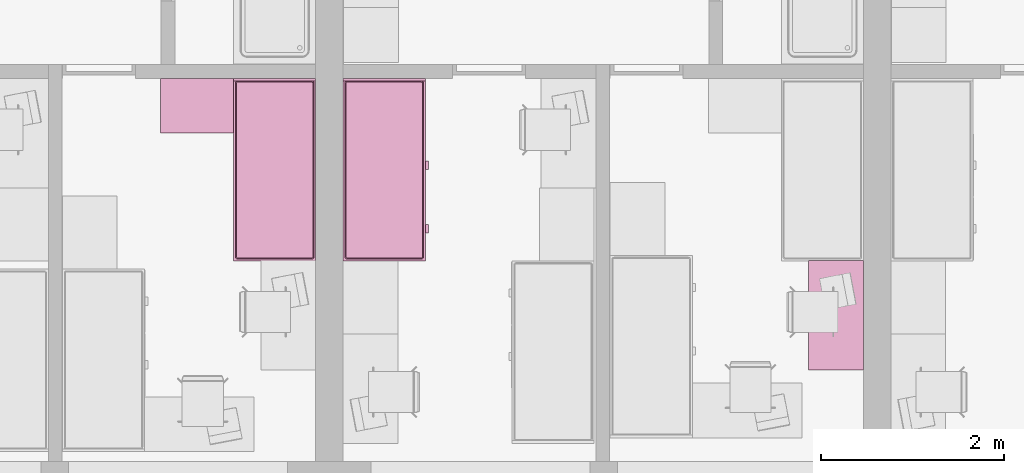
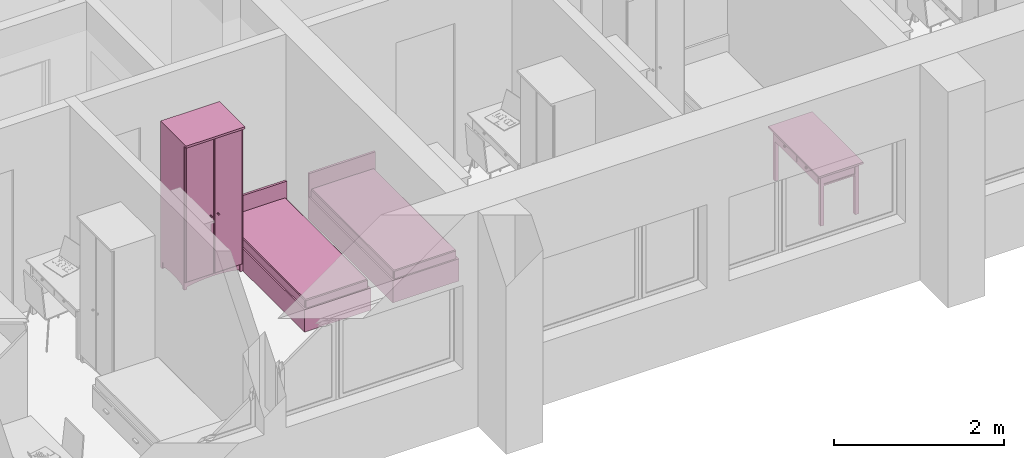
# One storey, part 99 of 172: 4 furnishings.
"""IFC2X3 building model written with IfcOpenShell, lengths in millimetres."""

from ifc_helpers import new_model, entity, si_unit, converted_unit, money_unit, direction, frame, origin_with_axes, place, context, subcontext, project, spatial, faceted_brep, source, transform, mapped, material, material_list, type_object, element, save


model = new_model("IFC2X3")

# Units and contexts
model_context = context("Model", 3, precision=1e-05, world=origin_with_axes(), true_north=direction((0.0, 1.0)))
body_context = subcontext(model_context, "Body", "Model", "MODEL_VIEW")
ifc_project = project(units=[si_unit("LENGTHUNIT", "METRE", prefix="MILLI"), si_unit("AREAUNIT", "SQUARE_METRE"), si_unit("VOLUMEUNIT", "CUBIC_METRE"), converted_unit("PLANEANGLEUNIT", "DEGREE", entity("IfcPlaneAngleMeasure", 0.0174532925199), si_unit("PLANEANGLEUNIT", "RADIAN"), dimensions=[0, 0, 0, 0, 0, 0, 0]), si_unit("SOLIDANGLEUNIT", "STERADIAN"), money_unit("USD"), converted_unit("TIMEUNIT", "Year", entity("IfcTimeMeasure", 31556926.0), si_unit("TIMEUNIT", "SECOND"), dimensions=[0, 0, 0, 0, 0, 0, 0]), si_unit("MASSUNIT", "GRAM"), si_unit("THERMODYNAMICTEMPERATUREUNIT", "DEGREE_CELSIUS"), si_unit("LUMINOUSINTENSITYUNIT", "LUMEN")], contexts=[model_context])

# Site, building, storey
site_placement = place(None, origin_with_axes())
site = spatial("IfcSite", under=ifc_project, at=site_placement, Name="Site", CompositionType="ELEMENT")
building_placement = place(site_placement, origin_with_axes())
building = spatial("IfcBuilding", under=site, at=building_placement, Name="Building", CompositionType="ELEMENT")
storey_placement = place(building_placement, frame((0.0, 0.0, 3200.0), z_axis=(0.0, 0.0, 1.0), x_axis=(1.0, 0.0, 0.0)))
storey = spatial("IfcBuildingStorey", under=building, at=storey_placement, Name="3KORRUS", CompositionType="ELEMENT", Elevation=3200.0)

# Furnishings
ifc_material = material(Name="Background")
ifc_material_list = material_list([ifc_material])
furnishing_element_type_1 = type_object("IfcFurnishingElementType", Name="Bed 19")
shared_shape_1 = source(origin_with_axes(), body_context, "Body", "Brep", [
    faceted_brep([(900.0, 1970.0, 0.0), (0.0, 1970.0, 0.0), (0.0, 2000.0, 0.0), (900.0, 2000.0, 0.0), (900.0, 1970.0, 660.0), (0.0, 1970.0, 660.0), (0.0, 2000.0, 660.0), (900.0, 2000.0, 660.0)], [[[0, 1, 2, 3]], [[1, 0, 4, 5]], [[2, 1, 5, 6]], [[3, 2, 6, 7]], [[0, 3, 7, 4]], [[5, 4, 7, 6]]]),
    faceted_brep([(900.0, 0.0, 0.0), (0.0, 0.0, 0.0), (0.0, 1970.0, 0.0), (900.0, 1970.0, 0.0), (900.0, 0.0, 320.0), (0.0, 0.0, 320.0), (0.0, 1970.0, 320.0), (900.0, 1970.0, 320.0)], [[[0, 1, 2, 3]], [[1, 0, 4, 5]], [[2, 1, 5, 6]], [[3, 2, 6, 7]], [[0, 3, 7, 4]], [[5, 4, 7, 6]]]),
    faceted_brep([(905.0, 10.0, 30.0), (900.0, 10.0, 30.0), (900.0, 695.0, 30.0), (905.0, 695.0, 30.0), (905.0, 10.0, 290.0), (900.0, 10.0, 290.0), (900.0, 695.0, 290.0), (905.0, 695.0, 290.0)], [[[0, 1, 2, 3]], [[1, 0, 4, 5]], [[2, 1, 5, 6]], [[3, 2, 6, 7]], [[0, 3, 7, 4]], [[5, 4, 7, 6]]]),
    faceted_brep([(935.0, 307.5, 150.0), (905.0, 307.5, 150.0), (905.0, 397.5, 150.0), (935.0, 397.5, 150.0), (935.0, 307.5, 170.0), (905.0, 307.5, 170.0), (905.0, 397.5, 170.0), (935.0, 397.5, 170.0)], [[[0, 1, 2, 3]], [[1, 0, 4, 5]], [[2, 1, 5, 6]], [[3, 2, 6, 7]], [[0, 3, 7, 4]], [[5, 4, 7, 6]]]),
    faceted_brep([(905.0, 705.0, 30.0), (900.0, 705.0, 30.0), (900.0, 1390.0, 30.0), (905.0, 1390.0, 30.0), (905.0, 705.0, 290.0), (900.0, 705.0, 290.0), (900.0, 1390.0, 290.0), (905.0, 1390.0, 290.0)], [[[0, 1, 2, 3]], [[1, 0, 4, 5]], [[2, 1, 5, 6]], [[3, 2, 6, 7]], [[0, 3, 7, 4]], [[5, 4, 7, 6]]]),
    faceted_brep([(935.0, 1002.5, 150.0), (905.0, 1002.5, 150.0), (905.0, 1092.5, 150.0), (935.0, 1092.5, 150.0), (935.0, 1002.5, 170.0), (905.0, 1002.5, 170.0), (905.0, 1092.5, 170.0), (935.0, 1092.5, 170.0)], [[[0, 1, 2, 3]], [[1, 0, 4, 5]], [[2, 1, 5, 6]], [[3, 2, 6, 7]], [[0, 3, 7, 4]], [[5, 4, 7, 6]]]),
    faceted_brep([(20.0, 40.0, 350.0), (20.0, 1950.0, 350.0), (21.522, 1957.654, 350.0), (25.858, 1964.142, 350.0), (32.346, 1968.478, 350.0), (40.0, 1970.0, 350.0), (860.0, 1970.0, 350.0), (867.654, 1968.478, 350.0), (874.142, 1964.142, 350.0), (878.478, 1957.654, 350.0), (880.0, 1950.0, 350.0), (880.0, 40.0, 350.0), (878.478, 32.346, 350.0), (874.142, 25.858, 350.0), (867.654, 21.522, 350.0), (860.0, 20.0, 350.0), (40.0, 20.0, 350.0), (32.346, 21.522, 350.0), (25.858, 25.858, 350.0), (21.522, 32.346, 350.0), (20.0, 40.0, 420.0), (20.0, 1950.0, 420.0), (21.522, 1957.654, 420.0), (25.858, 1964.142, 420.0), (32.346, 1968.478, 420.0), (40.0, 1970.0, 420.0), (860.0, 1970.0, 420.0), (867.654, 1968.478, 420.0), (874.142, 1964.142, 420.0), (878.478, 1957.654, 420.0), (880.0, 1950.0, 420.0), (880.0, 40.0, 420.0), (878.478, 32.346, 420.0), (874.142, 25.858, 420.0), (867.654, 21.522, 420.0), (860.0, 20.0, 420.0), (40.0, 20.0, 420.0), (32.346, 21.522, 420.0), (25.858, 25.858, 420.0), (21.522, 32.346, 420.0), (21.522, 40.15, 427.654), (21.522, 1949.85, 427.654), (22.956, 1957.06, 427.654), (26.955, 1963.045, 427.654), (32.94, 1967.044, 427.654), (40.15, 1968.478, 427.654), (859.85, 1968.478, 427.654), (867.06, 1967.044, 427.654), (873.045, 1963.045, 427.654), (877.044, 1957.06, 427.654), (878.478, 1949.85, 427.654), (878.478, 40.15, 427.654), (877.044, 32.94, 427.654), (873.045, 26.955, 427.654), (867.06, 22.956, 427.654), (859.85, 21.522, 427.654), (40.15, 21.522, 427.654), (32.94, 22.956, 427.654), (26.955, 26.955, 427.654), (22.956, 32.94, 427.654), (32.346, 41.216, 438.478), (32.346, 1948.784, 438.478), (33.152, 1952.836, 438.478), (34.759, 1955.241, 438.478), (37.164, 1956.848, 438.478), (41.216, 1957.654, 438.478), (858.784, 1957.654, 438.478), (862.836, 1956.848, 438.478), (865.241, 1955.241, 438.478), (866.848, 1952.836, 438.478), (867.654, 1948.784, 438.478), (867.654, 41.216, 438.478), (866.848, 37.164, 438.478), (865.241, 34.759, 438.478), (862.836, 33.152, 438.478), (858.784, 32.346, 438.478), (41.216, 32.346, 438.478), (37.164, 33.152, 438.478), (34.759, 34.759, 438.478), (33.152, 37.164, 438.478), (40.0, 41.97, 440.0), (40.0, 1948.03, 440.0), (40.327, 1949.673, 440.0), (40.0, 1950.0, 439.924), (41.97, 1950.0, 440.0), (858.03, 1950.0, 440.0), (859.673, 1949.673, 440.0), (860.0, 1950.0, 439.924), (860.0, 1948.03, 440.0), (860.0, 41.97, 440.0), (859.673, 40.327, 440.0), (860.0, 40.0, 439.924), (858.03, 40.0, 440.0), (41.97, 40.0, 440.0), (40.327, 40.327, 440.0), (40.0, 40.0, 439.924)], [[[0, 1, 2, 3, 4, 5, 6, 7, 8, 9, 10, 11, 12, 13, 14, 15, 16, 17, 18, 19]], [[1, 0, 20, 21]], [[2, 1, 21, 22]], [[3, 2, 22, 23]], [[4, 3, 23, 24]], [[5, 4, 24, 25]], [[6, 5, 25, 26]], [[7, 6, 26, 27]], [[8, 7, 27, 28]], [[9, 8, 28, 29]], [[10, 9, 29, 30]], [[11, 10, 30, 31]], [[12, 11, 31, 32]], [[13, 12, 32, 33]], [[14, 13, 33, 34]], [[15, 14, 34, 35]], [[16, 15, 35, 36]], [[17, 16, 36, 37]], [[18, 17, 37, 38]], [[19, 18, 38, 39]], [[0, 19, 39, 20]], [[21, 20, 40, 41]], [[22, 21, 41, 42]], [[23, 22, 42, 43]], [[24, 23, 43, 44]], [[25, 24, 44, 45]], [[26, 25, 45, 46]], [[27, 26, 46, 47]], [[28, 27, 47, 48]], [[29, 28, 48, 49]], [[30, 29, 49, 50]], [[31, 30, 50, 51]], [[32, 31, 51, 52]], [[33, 32, 52, 53]], [[34, 33, 53, 54]], [[35, 34, 54, 55]], [[36, 35, 55, 56]], [[37, 36, 56, 57]], [[38, 37, 57, 58]], [[39, 38, 58, 59]], [[20, 39, 59, 40]], [[41, 40, 60, 61]], [[42, 41, 61, 62]], [[43, 42, 62, 63]], [[44, 43, 63, 64]], [[45, 44, 64, 65]], [[46, 45, 65, 66]], [[47, 46, 66, 67]], [[48, 47, 67, 68]], [[49, 48, 68, 69]], [[50, 49, 69, 70]], [[51, 50, 70, 71]], [[52, 51, 71, 72]], [[53, 52, 72, 73]], [[54, 53, 73, 74]], [[55, 54, 74, 75]], [[56, 55, 75, 76]], [[57, 56, 76, 77]], [[58, 57, 77, 78]], [[59, 58, 78, 79]], [[40, 59, 79, 60]], [[61, 60, 80, 81]], [[62, 61, 81, 82, 83]], [[63, 62, 83]], [[64, 63, 83]], [[65, 64, 83, 82, 84]], [[66, 65, 84, 85]], [[67, 66, 85, 86, 87]], [[68, 67, 87]], [[69, 68, 87]], [[70, 69, 87, 86, 88]], [[71, 70, 88, 89]], [[72, 71, 89, 90, 91]], [[73, 72, 91]], [[74, 73, 91]], [[75, 74, 91, 90, 92]], [[76, 75, 92, 93]], [[77, 76, 93, 94, 95]], [[78, 77, 95]], [[79, 78, 95]], [[60, 79, 95, 94, 80]], [[81, 80, 94, 93, 92, 90, 89, 88, 86, 85, 84, 82]]]),
    faceted_brep([(20.0, 40.0, 350.0), (21.522, 32.346, 350.0), (25.858, 25.858, 350.0), (32.346, 21.522, 350.0), (40.0, 20.0, 350.0), (860.0, 20.0, 350.0), (867.654, 21.522, 350.0), (874.142, 25.858, 350.0), (878.478, 32.346, 350.0), (880.0, 40.0, 350.0), (880.0, 1950.0, 350.0), (878.478, 1957.654, 350.0), (874.142, 1964.142, 350.0), (867.654, 1968.478, 350.0), (860.0, 1970.0, 350.0), (40.0, 1970.0, 350.0), (32.346, 1968.478, 350.0), (25.858, 1964.142, 350.0), (21.522, 1957.654, 350.0), (20.0, 1950.0, 350.0), (20.0, 40.0, 320.0), (21.522, 32.346, 320.0), (25.858, 25.858, 320.0), (32.346, 21.522, 320.0), (40.0, 20.0, 320.0), (860.0, 20.0, 320.0), (867.654, 21.522, 320.0), (874.142, 25.858, 320.0), (878.478, 32.346, 320.0), (880.0, 40.0, 320.0), (880.0, 1950.0, 320.0), (878.478, 1957.654, 320.0), (874.142, 1964.142, 320.0), (867.654, 1968.478, 320.0), (860.0, 1970.0, 320.0), (40.0, 1970.0, 320.0), (32.346, 1968.478, 320.0), (25.858, 1964.142, 320.0), (21.522, 1957.654, 320.0), (20.0, 1950.0, 320.0)], [[[0, 1, 2, 3, 4, 5, 6, 7, 8, 9, 10, 11, 12, 13, 14, 15, 16, 17, 18, 19]], [[0, 20, 21, 1]], [[1, 21, 22, 2]], [[2, 22, 23, 3]], [[3, 23, 24, 4]], [[4, 24, 25, 5]], [[5, 25, 26, 6]], [[6, 26, 27, 7]], [[7, 27, 28, 8]], [[8, 28, 29, 9]], [[9, 29, 30, 10]], [[10, 30, 31, 11]], [[11, 31, 32, 12]], [[12, 32, 33, 13]], [[13, 33, 34, 14]], [[14, 34, 35, 15]], [[15, 35, 36, 16]], [[16, 36, 37, 17]], [[17, 37, 38, 18]], [[18, 38, 39, 19]], [[19, 39, 20, 0]], [[20, 39, 38, 37, 36, 35, 34, 33, 32, 31, 30, 29, 28, 27, 26, 25, 24, 23, 22, 21]]]),
])
for number, where, z_axis, x_axis, name in (
    (1, (-37190.2967033, -17439.2398994, 0.0), (0.0, 0.0, 1.0), (1.0, 0.0, 0.0), "FU - 013"),
    (2, (-35990.2967033, -17439.2398994, 0.0), (0.0, 0.0, 1.0), (1.0, 0.0, 0.0), "FU - 013"),
):
    element("IfcFurnishingElement", number, at=place(storey_placement, frame(where, z_axis=z_axis, x_axis=x_axis)), inside=storey, type_object=furnishing_element_type_1, material=ifc_material_list, Name=name, context=body_context, shape_type="MappedRepresentation", body=[
        mapped(shared_shape_1, transform((0.0, 0.0, 0.0))),
    ])
furnishing_element_type_2 = type_object("IfcFurnishingElementType", Name="Cupboard 19")
shared_shape_2 = source(origin_with_axes(), body_context, "Body", "Brep", [
    faceted_brep([(780.0, 600.0, 120.0), (780.0, 600.0, 2050.0), (780.0, 580.0, 2050.0), (780.0, 580.0, 120.0), (20.0, 600.0, 120.0), (20.0, 600.0, 2050.0), (20.0, 580.0, 2050.0), (20.0, 580.0, 120.0)], [[[0, 1, 2, 3]], [[4, 5, 1, 0]], [[1, 5, 6, 2]], [[3, 2, 6, 7]], [[0, 3, 7, 4]], [[7, 6, 5, 4]]]),
    faceted_brep([(0.0, 50.0, 100.0), (0.0, 600.0, 100.0), (20.0, 600.0, 100.0), (20.0, 50.0, 100.0), (0.0, 50.0, 2070.0), (0.0, 600.0, 2070.0), (20.0, 600.0, 2070.0), (20.0, 50.0, 2070.0)], [[[0, 1, 2, 3]], [[0, 4, 5, 1]], [[1, 5, 6, 2]], [[2, 6, 7, 3]], [[3, 7, 4, 0]], [[7, 6, 5, 4]]]),
    faceted_brep([(780.0, 50.0, 100.0), (780.0, 600.0, 100.0), (800.0, 600.0, 100.0), (800.0, 50.0, 100.0), (780.0, 50.0, 2070.0), (780.0, 600.0, 2070.0), (800.0, 600.0, 2070.0), (800.0, 50.0, 2070.0)], [[[0, 1, 2, 3]], [[0, 4, 5, 1]], [[1, 5, 6, 2]], [[2, 6, 7, 3]], [[3, 7, 4, 0]], [[7, 6, 5, 4]]]),
    faceted_brep([(20.0, 50.0, 100.0), (20.0, 600.0, 100.0), (780.0, 600.0, 100.0), (780.0, 50.0, 100.0), (20.0, 50.0, 120.0), (20.0, 600.0, 120.0), (780.0, 600.0, 120.0), (780.0, 50.0, 120.0)], [[[0, 1, 2, 3]], [[0, 4, 5, 1]], [[1, 5, 6, 2]], [[2, 6, 7, 3]], [[3, 7, 4, 0]], [[7, 6, 5, 4]]]),
    faceted_brep([(20.0, 50.0, 2050.0), (20.0, 600.0, 2050.0), (780.0, 600.0, 2050.0), (780.0, 50.0, 2050.0), (20.0, 50.0, 2070.0), (20.0, 600.0, 2070.0), (780.0, 600.0, 2070.0), (780.0, 50.0, 2070.0)], [[[0, 1, 2, 3]], [[0, 4, 5, 1]], [[1, 5, 6, 2]], [[2, 6, 7, 3]], [[3, 7, 4, 0]], [[7, 6, 5, 4]]]),
    faceted_brep([(0.0, 600.0, 2070.0), (0.0, 0.0, 2070.0), (0.0, 0.0, 2100.0), (0.0, 600.0, 2100.0), (800.0, 600.0, 2070.0), (800.0, 0.0, 2070.0), (800.0, 0.0, 2100.0), (800.0, 600.0, 2100.0)], [[[0, 1, 2, 3]], [[0, 4, 5, 1]], [[1, 5, 6, 2]], [[3, 2, 6, 7]], [[4, 0, 3, 7]], [[5, 4, 7, 6]]]),
    faceted_brep([(760.0, 590.0, 25.0), (760.0, 570.0, 25.0), (640.962, 570.0, 45.8), (640.962, 590.0, 45.8), (760.0, 590.0, 100.0), (760.0, 570.0, 100.0), (40.0, 570.0, 100.0), (40.0, 570.0, 25.0), (159.038, 570.0, 45.8), (279.23, 570.0, 58.32), (400.0, 570.0, 62.5), (520.77, 570.0, 58.32), (520.77, 590.0, 58.32), (400.0, 590.0, 62.5), (279.23, 590.0, 58.32), (159.038, 590.0, 45.8), (40.0, 590.0, 25.0), (40.0, 590.0, 100.0)], [[[0, 1, 2, 3]], [[4, 5, 1, 0]], [[1, 5, 6, 7, 8, 9, 10, 11, 2]], [[3, 2, 11, 12]], [[0, 3, 12, 13, 14, 15, 16, 17, 4]], [[17, 6, 5, 4]], [[16, 7, 6, 17]], [[15, 8, 7, 16]], [[14, 9, 8, 15]], [[13, 10, 9, 14]], [[12, 11, 10, 13]]]),
    faceted_brep([(760.0, 80.0, 25.0), (760.0, 60.0, 25.0), (640.962, 60.0, 45.8), (640.962, 80.0, 45.8), (760.0, 80.0, 100.0), (760.0, 60.0, 100.0), (40.0, 60.0, 100.0), (40.0, 60.0, 25.0), (159.038, 60.0, 45.8), (279.23, 60.0, 58.32), (400.0, 60.0, 62.5), (520.77, 60.0, 58.32), (520.77, 80.0, 58.32), (400.0, 80.0, 62.5), (279.23, 80.0, 58.32), (159.038, 80.0, 45.8), (40.0, 80.0, 25.0), (40.0, 80.0, 100.0)], [[[0, 1, 2, 3]], [[4, 5, 1, 0]], [[1, 5, 6, 7, 8, 9, 10, 11, 2]], [[3, 2, 11, 12]], [[0, 3, 12, 13, 14, 15, 16, 17, 4]], [[17, 6, 5, 4]], [[16, 7, 6, 17]], [[15, 8, 7, 16]], [[14, 9, 8, 15]], [[13, 10, 9, 14]], [[12, 11, 10, 13]]]),
    faceted_brep([(790.0, 90.0, 25.0), (770.0, 90.0, 25.0), (770.0, 141.266, 38.072), (790.0, 141.266, 38.072), (790.0, 90.0, 100.0), (770.0, 90.0, 100.0), (770.0, 560.0, 100.0), (770.0, 560.0, 25.0), (770.0, 508.734, 38.072), (770.0, 456.752, 47.92), (770.0, 404.257, 54.508), (770.0, 351.453, 57.808), (770.0, 298.547, 57.808), (770.0, 245.743, 54.508), (770.0, 193.248, 47.92), (790.0, 193.248, 47.92), (790.0, 245.743, 54.508), (790.0, 298.547, 57.808), (790.0, 351.453, 57.808), (790.0, 404.257, 54.508), (790.0, 456.752, 47.92), (790.0, 508.734, 38.072), (790.0, 560.0, 25.0), (790.0, 560.0, 100.0)], [[[0, 1, 2, 3]], [[4, 5, 1, 0]], [[1, 5, 6, 7, 8, 9, 10, 11, 12, 13, 14, 2]], [[3, 2, 14, 15]], [[0, 3, 15, 16, 17, 18, 19, 20, 21, 22, 23, 4]], [[23, 6, 5, 4]], [[22, 7, 6, 23]], [[21, 8, 7, 22]], [[20, 9, 8, 21]], [[19, 10, 9, 20]], [[18, 11, 10, 19]], [[17, 12, 11, 18]], [[16, 13, 12, 17]], [[15, 14, 13, 16]]]),
    faceted_brep([(30.0, 90.0, 25.0), (10.0, 90.0, 25.0), (10.0, 141.266, 38.072), (30.0, 141.266, 38.072), (30.0, 90.0, 100.0), (10.0, 90.0, 100.0), (10.0, 560.0, 100.0), (10.0, 560.0, 25.0), (10.0, 508.734, 38.072), (10.0, 456.752, 47.92), (10.0, 404.257, 54.508), (10.0, 351.453, 57.808), (10.0, 298.547, 57.808), (10.0, 245.743, 54.508), (10.0, 193.248, 47.92), (30.0, 193.248, 47.92), (30.0, 245.743, 54.508), (30.0, 298.547, 57.808), (30.0, 351.453, 57.808), (30.0, 404.257, 54.508), (30.0, 456.752, 47.92), (30.0, 508.734, 38.072), (30.0, 560.0, 25.0), (30.0, 560.0, 100.0)], [[[0, 1, 2, 3]], [[4, 5, 1, 0]], [[1, 5, 6, 7, 8, 9, 10, 11, 12, 13, 14, 2]], [[3, 2, 14, 15]], [[0, 3, 15, 16, 17, 18, 19, 20, 21, 22, 23, 4]], [[23, 6, 5, 4]], [[22, 7, 6, 23]], [[21, 8, 7, 22]], [[20, 9, 8, 21]], [[19, 10, 9, 20]], [[18, 11, 10, 19]], [[17, 12, 11, 18]], [[16, 13, 12, 17]], [[15, 14, 13, 16]]]),
    faceted_brep([(760.0, 560.0, 0.0), (760.0, 560.0, 100.0), (760.0, 600.0, 100.0), (760.0, 600.0, 0.0), (800.0, 560.0, 0.0), (800.0, 560.0, 100.0), (800.0, 600.0, 100.0), (800.0, 600.0, 0.0)], [[[0, 1, 2, 3]], [[4, 5, 1, 0]], [[1, 5, 6, 2]], [[3, 2, 6, 7]], [[0, 3, 7, 4]], [[7, 6, 5, 4]]]),
    faceted_brep([(0.0, 560.0, 0.0), (0.0, 560.0, 100.0), (0.0, 600.0, 100.0), (0.0, 600.0, 0.0), (40.0, 560.0, 0.0), (40.0, 560.0, 100.0), (40.0, 600.0, 100.0), (40.0, 600.0, 0.0)], [[[0, 1, 2, 3]], [[4, 5, 1, 0]], [[1, 5, 6, 2]], [[3, 2, 6, 7]], [[0, 3, 7, 4]], [[7, 6, 5, 4]]]),
    faceted_brep([(760.0, 50.0, 0.0), (760.0, 50.0, 100.0), (760.0, 90.0, 100.0), (760.0, 90.0, 0.0), (800.0, 50.0, 0.0), (800.0, 50.0, 100.0), (800.0, 90.0, 100.0), (800.0, 90.0, 0.0)], [[[0, 1, 2, 3]], [[4, 5, 1, 0]], [[1, 5, 6, 2]], [[3, 2, 6, 7]], [[0, 3, 7, 4]], [[7, 6, 5, 4]]]),
    faceted_brep([(0.0, 50.0, 0.0), (0.0, 50.0, 100.0), (0.0, 90.0, 100.0), (0.0, 90.0, 0.0), (40.0, 50.0, 0.0), (40.0, 50.0, 100.0), (40.0, 90.0, 100.0), (40.0, 90.0, 0.0)], [[[0, 1, 2, 3]], [[4, 5, 1, 0]], [[1, 5, 6, 2]], [[3, 2, 6, 7]], [[0, 3, 7, 4]], [[7, 6, 5, 4]]]),
    faceted_brep([(780.0, 580.0, 587.5), (780.0, 580.0, 607.5), (780.0, 50.0, 607.5), (780.0, 50.0, 587.5), (20.0, 580.0, 587.5), (20.0, 580.0, 607.5), (20.0, 50.0, 607.5), (20.0, 50.0, 587.5)], [[[0, 1, 2, 3]], [[4, 5, 1, 0]], [[1, 5, 6, 2]], [[3, 2, 6, 7]], [[0, 3, 7, 4]], [[7, 6, 5, 4]]]),
    faceted_brep([(780.0, 580.0, 1075.0), (780.0, 580.0, 1095.0), (780.0, 50.0, 1095.0), (780.0, 50.0, 1075.0), (20.0, 580.0, 1075.0), (20.0, 580.0, 1095.0), (20.0, 50.0, 1095.0), (20.0, 50.0, 1075.0)], [[[0, 1, 2, 3]], [[4, 5, 1, 0]], [[1, 5, 6, 2]], [[3, 2, 6, 7]], [[0, 3, 7, 4]], [[7, 6, 5, 4]]]),
    faceted_brep([(780.0, 580.0, 1562.5), (780.0, 580.0, 1582.5), (780.0, 50.0, 1582.5), (780.0, 50.0, 1562.5), (20.0, 580.0, 1562.5), (20.0, 580.0, 1582.5), (20.0, 50.0, 1582.5), (20.0, 50.0, 1562.5)], [[[0, 1, 2, 3]], [[4, 5, 1, 0]], [[1, 5, 6, 2]], [[3, 2, 6, 7]], [[0, 3, 7, 4]], [[7, 6, 5, 4]]]),
    faceted_brep([(789.5, 50.0, 110.5), (400.5, 50.0, 110.5), (400.5, 50.0, 2059.5), (789.5, 50.0, 2059.5), (789.5, 40.0, 110.5), (400.5, 40.0, 110.5), (400.5, 40.0, 2059.5), (789.5, 40.0, 2059.5), (779.5, 30.0, 120.5), (410.5, 30.0, 120.5), (410.5, 30.0, 2049.5), (779.5, 30.0, 2049.5)], [[[0, 1, 2, 3]], [[0, 4, 5, 1]], [[1, 5, 6, 2]], [[2, 6, 7, 3]], [[3, 7, 4, 0]], [[4, 8, 9, 5]], [[5, 9, 10, 6]], [[6, 10, 11, 7]], [[7, 11, 8, 4]], [[10, 9, 8, 11]]]),
    faceted_brep([(399.5, 50.0, 110.5), (10.5, 50.0, 110.5), (10.5, 50.0, 2059.5), (399.5, 50.0, 2059.5), (399.5, 40.0, 110.5), (10.5, 40.0, 110.5), (10.5, 40.0, 2059.5), (399.5, 40.0, 2059.5), (389.5, 30.0, 120.5), (20.5, 30.0, 120.5), (20.5, 30.0, 2049.5), (389.5, 30.0, 2049.5)], [[[0, 1, 2, 3]], [[0, 4, 5, 1]], [[1, 5, 6, 2]], [[2, 6, 7, 3]], [[3, 7, 4, 0]], [[4, 8, 9, 5]], [[5, 9, 10, 6]], [[6, 10, 11, 7]], [[7, 11, 8, 4]], [[10, 9, 8, 11]]]),
    faceted_brep([(339.608, 30.0, 954.0), (338.0, 30.0, 960.0), (339.608, 30.0, 966.0), (344.0, 30.0, 970.392), (350.0, 30.0, 972.0), (356.0, 30.0, 970.392), (360.392, 30.0, 966.0), (362.0, 30.0, 960.0), (360.392, 30.0, 954.0), (356.0, 30.0, 949.608), (350.0, 30.0, 948.0), (344.0, 30.0, 949.608), (339.608, 5.0, 954.0), (338.0, 5.0, 960.0), (339.608, 5.0, 966.0), (344.0, 5.0, 970.392), (350.0, 5.0, 972.0), (356.0, 5.0, 970.392), (360.392, 5.0, 966.0), (362.0, 5.0, 960.0), (360.392, 5.0, 954.0), (356.0, 5.0, 949.608), (350.0, 5.0, 948.0), (344.0, 5.0, 949.608)], [[[0, 1, 2, 3, 4, 5, 6, 7, 8, 9, 10, 11]], [[0, 12, 13, 1]], [[1, 13, 14, 2]], [[2, 14, 15, 3]], [[3, 15, 16, 4]], [[4, 16, 17, 5]], [[5, 17, 18, 6]], [[6, 18, 19, 7]], [[7, 19, 20, 8]], [[8, 20, 21, 9]], [[9, 21, 22, 10]], [[10, 22, 23, 11]], [[11, 23, 12, 0]], [[12, 23, 22, 21, 20, 19, 18, 17, 16, 15, 14, 13]]]),
    faceted_brep([(460.392, 30.0, 954.0), (456.0, 30.0, 949.608), (450.0, 30.0, 948.0), (444.0, 30.0, 949.608), (439.608, 30.0, 954.0), (438.0, 30.0, 960.0), (439.608, 30.0, 966.0), (444.0, 30.0, 970.392), (450.0, 30.0, 972.0), (456.0, 30.0, 970.392), (460.392, 30.0, 966.0), (462.0, 30.0, 960.0), (460.392, 5.0, 954.0), (456.0, 5.0, 949.608), (450.0, 5.0, 948.0), (444.0, 5.0, 949.608), (439.608, 5.0, 954.0), (438.0, 5.0, 960.0), (439.608, 5.0, 966.0), (444.0, 5.0, 970.392), (450.0, 5.0, 972.0), (456.0, 5.0, 970.392), (460.392, 5.0, 966.0), (462.0, 5.0, 960.0)], [[[0, 1, 2, 3, 4, 5, 6, 7, 8, 9, 10, 11]], [[1, 0, 12, 13]], [[2, 1, 13, 14]], [[3, 2, 14, 15]], [[4, 3, 15, 16]], [[5, 4, 16, 17]], [[6, 5, 17, 18]], [[7, 6, 18, 19]], [[8, 7, 19, 20]], [[9, 8, 20, 21]], [[10, 9, 21, 22]], [[11, 10, 22, 23]], [[0, 11, 23, 12]], [[12, 23, 22, 21, 20, 19, 18, 17, 16, 15, 14, 13]]]),
])
furnishing_1_placement = place(storey_placement, frame((-37990.2967033, -16039.2398994, 0.0), z_axis=(0.0, 0.0, 1.0), x_axis=(1.0, 0.0, 0.0)))
element("IfcFurnishingElement", 3, at=furnishing_1_placement, inside=storey, type_object=furnishing_element_type_2, material=ifc_material_list, Name="FU - 014", context=body_context, shape_type="MappedRepresentation", body=[
    mapped(shared_shape_2, transform((0.0, 0.0, 0.0))),
])
furnishing_element_type_3 = type_object("IfcFurnishingElementType", Name="Rectangular Table 01 19")
shared_shape_3 = source(origin_with_axes(), body_context, "Body", "Brep", [
    faceted_brep([(90.0, 40.0, 0.0), (40.0, 40.0, 0.0), (40.0, 90.0, 0.0), (90.0, 90.0, 0.0), (90.0, 40.0, 725.0), (40.0, 40.0, 725.0), (40.0, 90.0, 725.0), (90.0, 90.0, 725.0)], [[[0, 1, 2, 3]], [[1, 0, 4, 5]], [[2, 1, 5, 6]], [[3, 2, 6, 7]], [[0, 3, 7, 4]], [[5, 4, 7, 6]]]),
    faceted_brep([(1160.0, 40.0, 0.0), (1110.0, 40.0, 0.0), (1110.0, 90.0, 0.0), (1160.0, 90.0, 0.0), (1160.0, 40.0, 725.0), (1110.0, 40.0, 725.0), (1110.0, 90.0, 725.0), (1160.0, 90.0, 725.0)], [[[0, 1, 2, 3]], [[1, 0, 4, 5]], [[2, 1, 5, 6]], [[3, 2, 6, 7]], [[0, 3, 7, 4]], [[5, 4, 7, 6]]]),
    faceted_brep([(90.0, 510.0, 0.0), (40.0, 510.0, 0.0), (40.0, 560.0, 0.0), (90.0, 560.0, 0.0), (90.0, 510.0, 725.0), (40.0, 510.0, 725.0), (40.0, 560.0, 725.0), (90.0, 560.0, 725.0)], [[[0, 1, 2, 3]], [[1, 0, 4, 5]], [[2, 1, 5, 6]], [[3, 2, 6, 7]], [[0, 3, 7, 4]], [[5, 4, 7, 6]]]),
    faceted_brep([(1160.0, 510.0, 0.0), (1110.0, 510.0, 0.0), (1110.0, 560.0, 0.0), (1160.0, 560.0, 0.0), (1160.0, 510.0, 725.0), (1110.0, 510.0, 725.0), (1110.0, 560.0, 725.0), (1160.0, 560.0, 725.0)], [[[0, 1, 2, 3]], [[1, 0, 4, 5]], [[2, 1, 5, 6]], [[3, 2, 6, 7]], [[0, 3, 7, 4]], [[5, 4, 7, 6]]]),
    faceted_brep([(1160.0, 40.0, 565.0), (40.0, 40.0, 565.0), (40.0, 560.0, 565.0), (1160.0, 560.0, 565.0), (1160.0, 40.0, 585.0), (40.0, 40.0, 585.0), (40.0, 560.0, 585.0), (1160.0, 560.0, 585.0)], [[[0, 1, 2, 3]], [[1, 0, 4, 5]], [[2, 1, 5, 6]], [[3, 2, 6, 7]], [[0, 3, 7, 4]], [[5, 4, 7, 6]]]),
    faceted_brep([(1110.0, 52.5, 585.0), (90.0, 52.5, 585.0), (90.0, 77.5, 585.0), (1110.0, 77.5, 585.0), (1110.0, 52.5, 745.0), (90.0, 52.5, 745.0), (90.0, 77.5, 745.0), (1110.0, 77.5, 745.0)], [[[0, 1, 2, 3]], [[1, 0, 4, 5]], [[2, 1, 5, 6]], [[3, 2, 6, 7]], [[0, 3, 7, 4]], [[5, 4, 7, 6]]]),
    faceted_brep([(77.5, 90.0, 585.0), (52.5, 90.0, 585.0), (52.5, 510.0, 585.0), (77.5, 510.0, 585.0), (77.5, 90.0, 745.0), (52.5, 90.0, 745.0), (52.5, 510.0, 745.0), (77.5, 510.0, 745.0)], [[[0, 1, 2, 3]], [[1, 0, 4, 5]], [[2, 1, 5, 6]], [[3, 2, 6, 7]], [[0, 3, 7, 4]], [[5, 4, 7, 6]]]),
    faceted_brep([(90.0, 547.5, 585.0), (1110.0, 547.5, 585.0), (1110.0, 522.5, 585.0), (90.0, 522.5, 585.0), (90.0, 547.5, 745.0), (1110.0, 547.5, 745.0), (1110.0, 522.5, 745.0), (90.0, 522.5, 745.0)], [[[0, 1, 2, 3]], [[1, 0, 4, 5]], [[2, 1, 5, 6]], [[3, 2, 6, 7]], [[0, 3, 7, 4]], [[5, 4, 7, 6]]]),
    faceted_brep([(1122.5, 510.0, 585.0), (1147.5, 510.0, 585.0), (1147.5, 90.0, 585.0), (1122.5, 90.0, 585.0), (1122.5, 510.0, 745.0), (1147.5, 510.0, 745.0), (1147.5, 90.0, 745.0), (1122.5, 90.0, 745.0)], [[[0, 1, 2, 3]], [[1, 0, 4, 5]], [[2, 1, 5, 6]], [[3, 2, 6, 7]], [[0, 3, 7, 4]], [[5, 4, 7, 6]]]),
    faceted_brep([(597.5, 40.0, 585.0), (95.0, 40.0, 585.0), (95.0, 60.0, 585.0), (597.5, 60.0, 585.0), (597.5, 40.0, 745.0), (95.0, 40.0, 745.0), (95.0, 60.0, 745.0), (597.5, 60.0, 745.0)], [[[0, 1, 2, 3]], [[1, 0, 4, 5]], [[2, 1, 5, 6]], [[3, 2, 6, 7]], [[0, 3, 7, 4]], [[5, 4, 7, 6]]]),
    faceted_brep([(1105.0, 40.0, 585.0), (602.5, 40.0, 585.0), (602.5, 60.0, 585.0), (1105.0, 60.0, 585.0), (1105.0, 40.0, 745.0), (602.5, 40.0, 745.0), (602.5, 60.0, 745.0), (1105.0, 60.0, 745.0)], [[[0, 1, 2, 3]], [[1, 0, 4, 5]], [[2, 1, 5, 6]], [[3, 2, 6, 7]], [[0, 3, 7, 4]], [[5, 4, 7, 6]]]),
    faceted_brep([(354.91, 40.0, 660.0), (351.25, 40.0, 656.34), (346.25, 40.0, 655.0), (341.25, 40.0, 656.34), (337.59, 40.0, 660.0), (336.25, 40.0, 665.0), (337.59, 40.0, 670.0), (341.25, 40.0, 673.66), (346.25, 40.0, 675.0), (351.25, 40.0, 673.66), (354.91, 40.0, 670.0), (356.25, 40.0, 665.0), (354.91, 25.0, 660.0), (351.25, 25.0, 656.34), (346.25, 25.0, 655.0), (341.25, 25.0, 656.34), (337.59, 25.0, 660.0), (336.25, 25.0, 665.0), (337.59, 25.0, 670.0), (341.25, 25.0, 673.66), (346.25, 25.0, 675.0), (351.25, 25.0, 673.66), (354.91, 25.0, 670.0), (356.25, 25.0, 665.0)], [[[0, 1, 2, 3, 4, 5, 6, 7, 8, 9, 10, 11]], [[1, 0, 12, 13]], [[2, 1, 13, 14]], [[3, 2, 14, 15]], [[4, 3, 15, 16]], [[5, 4, 16, 17]], [[6, 5, 17, 18]], [[7, 6, 18, 19]], [[8, 7, 19, 20]], [[9, 8, 20, 21]], [[10, 9, 21, 22]], [[11, 10, 22, 23]], [[0, 11, 23, 12]], [[12, 23, 22, 21, 20, 19, 18, 17, 16, 15, 14, 13]]]),
    faceted_brep([(356.25, 12.01, 665.0), (346.25, 10.0, 665.0), (354.91, 12.01, 660.0), (354.91, 12.01, 670.0), (351.25, 12.01, 656.34), (363.571, 17.5, 665.0), (361.25, 17.5, 656.34), (351.25, 12.01, 673.66), (361.25, 17.5, 673.66), (346.25, 12.01, 655.0), (354.91, 17.5, 650.0), (366.25, 25.0, 665.0), (363.571, 25.0, 655.0), (346.25, 12.01, 675.0), (354.91, 17.5, 680.0), (363.571, 25.0, 675.0), (341.25, 12.01, 656.34), (346.25, 17.5, 647.679), (356.25, 25.0, 647.679), (346.25, 25.0, 645.0), (336.25, 25.0, 647.679), (328.929, 25.0, 655.0), (326.25, 25.0, 665.0), (328.929, 25.0, 675.0), (336.25, 25.0, 682.321), (346.25, 25.0, 685.0), (356.25, 25.0, 682.321), (341.25, 12.01, 673.66), (346.25, 17.5, 682.321), (337.59, 12.01, 660.0), (337.59, 17.5, 650.0), (331.25, 17.5, 656.34), (328.929, 17.5, 665.0), (331.25, 17.5, 673.66), (337.59, 17.5, 680.0), (337.59, 12.01, 670.0), (336.25, 12.01, 665.0)], [[[0, 1, 2]], [[3, 1, 0]], [[2, 1, 4]], [[5, 0, 2, 6]], [[7, 1, 3]], [[8, 3, 0, 5]], [[4, 1, 9]], [[6, 2, 4, 10]], [[11, 5, 6, 12]], [[13, 1, 7]], [[14, 7, 3, 8]], [[15, 8, 5, 11]], [[9, 1, 16]], [[10, 4, 9, 17]], [[12, 6, 10, 18]], [[12, 18, 19, 20, 21, 22, 23, 24, 25, 26, 15, 11]], [[27, 1, 13]], [[28, 13, 7, 14]], [[26, 14, 8, 15]], [[16, 1, 29]], [[17, 9, 16, 30]], [[18, 10, 17, 19]], [[19, 17, 30, 20]], [[20, 30, 31, 21]], [[21, 31, 32, 22]], [[22, 32, 33, 23]], [[23, 33, 34, 24]], [[24, 34, 28, 25]], [[25, 28, 14, 26]], [[35, 1, 27]], [[34, 27, 13, 28]], [[29, 1, 36]], [[30, 16, 29, 31]], [[31, 29, 36, 32]], [[32, 36, 35, 33]], [[33, 35, 27, 34]], [[36, 1, 35]]]),
    faceted_brep([(862.41, 40.0, 660.0), (858.75, 40.0, 656.34), (853.75, 40.0, 655.0), (848.75, 40.0, 656.34), (845.09, 40.0, 660.0), (843.75, 40.0, 665.0), (845.09, 40.0, 670.0), (848.75, 40.0, 673.66), (853.75, 40.0, 675.0), (858.75, 40.0, 673.66), (862.41, 40.0, 670.0), (863.75, 40.0, 665.0), (862.41, 25.0, 660.0), (858.75, 25.0, 656.34), (853.75, 25.0, 655.0), (848.75, 25.0, 656.34), (845.09, 25.0, 660.0), (843.75, 25.0, 665.0), (845.09, 25.0, 670.0), (848.75, 25.0, 673.66), (853.75, 25.0, 675.0), (858.75, 25.0, 673.66), (862.41, 25.0, 670.0), (863.75, 25.0, 665.0)], [[[0, 1, 2, 3, 4, 5, 6, 7, 8, 9, 10, 11]], [[1, 0, 12, 13]], [[2, 1, 13, 14]], [[3, 2, 14, 15]], [[4, 3, 15, 16]], [[5, 4, 16, 17]], [[6, 5, 17, 18]], [[7, 6, 18, 19]], [[8, 7, 19, 20]], [[9, 8, 20, 21]], [[10, 9, 21, 22]], [[11, 10, 22, 23]], [[0, 11, 23, 12]], [[12, 23, 22, 21, 20, 19, 18, 17, 16, 15, 14, 13]]]),
    faceted_brep([(863.75, 12.01, 665.0), (853.75, 10.0, 665.0), (862.41, 12.01, 660.0), (862.41, 12.01, 670.0), (858.75, 12.01, 656.34), (871.071, 17.5, 665.0), (868.75, 17.5, 656.34), (858.75, 12.01, 673.66), (868.75, 17.5, 673.66), (853.75, 12.01, 655.0), (862.41, 17.5, 650.0), (873.75, 25.0, 665.0), (871.071, 25.0, 655.0), (853.75, 12.01, 675.0), (862.41, 17.5, 680.0), (871.071, 25.0, 675.0), (848.75, 12.01, 656.34), (853.75, 17.5, 647.679), (863.75, 25.0, 647.679), (853.75, 25.0, 645.0), (843.75, 25.0, 647.679), (836.429, 25.0, 655.0), (833.75, 25.0, 665.0), (836.429, 25.0, 675.0), (843.75, 25.0, 682.321), (853.75, 25.0, 685.0), (863.75, 25.0, 682.321), (848.75, 12.01, 673.66), (853.75, 17.5, 682.321), (845.09, 12.01, 660.0), (845.09, 17.5, 650.0), (838.75, 17.5, 656.34), (836.429, 17.5, 665.0), (838.75, 17.5, 673.66), (845.09, 17.5, 680.0), (845.09, 12.01, 670.0), (843.75, 12.01, 665.0)], [[[0, 1, 2]], [[3, 1, 0]], [[2, 1, 4]], [[5, 0, 2, 6]], [[7, 1, 3]], [[8, 3, 0, 5]], [[4, 1, 9]], [[6, 2, 4, 10]], [[11, 5, 6, 12]], [[13, 1, 7]], [[14, 7, 3, 8]], [[15, 8, 5, 11]], [[9, 1, 16]], [[10, 4, 9, 17]], [[12, 6, 10, 18]], [[12, 18, 19, 20, 21, 22, 23, 24, 25, 26, 15, 11]], [[27, 1, 13]], [[28, 13, 7, 14]], [[26, 14, 8, 15]], [[16, 1, 29]], [[17, 9, 16, 30]], [[18, 10, 17, 19]], [[19, 17, 30, 20]], [[20, 30, 31, 21]], [[21, 31, 32, 22]], [[22, 32, 33, 23]], [[23, 33, 34, 24]], [[24, 34, 28, 25]], [[25, 28, 14, 26]], [[35, 1, 27]], [[34, 27, 13, 28]], [[29, 1, 36]], [[30, 16, 29, 31]], [[31, 29, 36, 32]], [[32, 36, 35, 33]], [[33, 35, 27, 34]], [[36, 1, 35]]]),
    faceted_brep([(1200.0, 0.0, 725.0), (0.0, 0.0, 725.0), (0.0, 600.0, 725.0), (1200.0, 600.0, 725.0), (1200.0, 0.0, 750.0), (0.0, 0.0, 750.0), (0.0, 600.0, 750.0), (1200.0, 600.0, 750.0)], [[[0, 1, 2, 3]], [[1, 0, 4, 5]], [[2, 1, 5, 6]], [[3, 2, 6, 7]], [[0, 3, 7, 4]], [[5, 4, 7, 6]]]),
])
furnishing_2_placement = place(storey_placement, frame((-30890.2967033, -17434.8573505, 0.0), z_axis=(0.0, 0.0, 1.0), x_axis=(0.0, -1.0, 0.0)))
element("IfcFurnishingElement", 4, at=furnishing_2_placement, inside=storey, type_object=furnishing_element_type_3, material=ifc_material_list, Name="FU - 011", context=body_context, shape_type="MappedRepresentation", body=[
    mapped(shared_shape_3, transform((0.0, 0.0, 0.0))),
])

save(model, "model.ifc")
